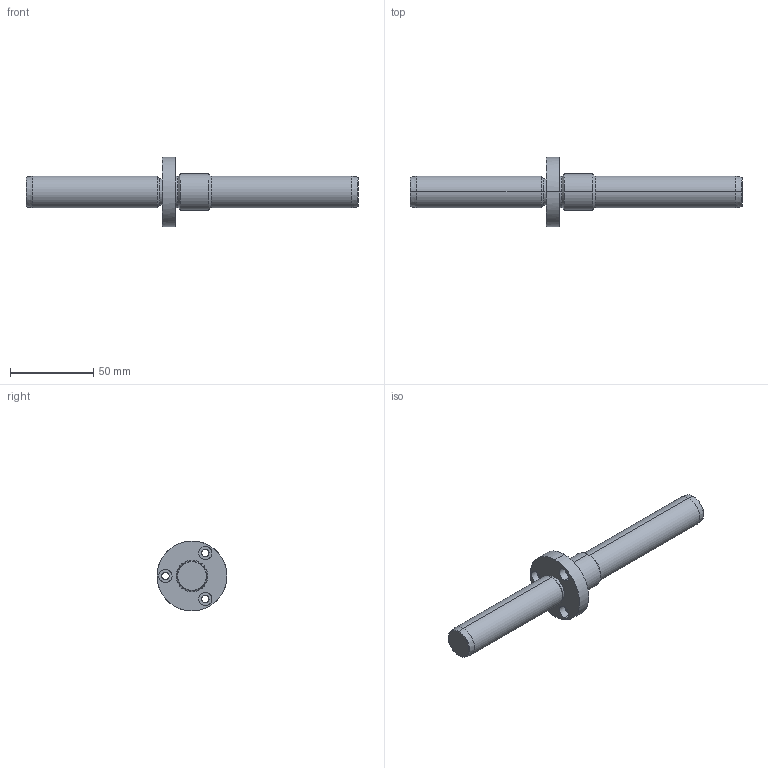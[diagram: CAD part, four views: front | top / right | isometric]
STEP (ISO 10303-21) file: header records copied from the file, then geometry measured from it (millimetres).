
FILE_DESCRIPTION(('CATIA V5 STEP Exchange'),'2;1');
FILE_NAME('C:\Users\Utente\Desktop\IO LAVORO\3D X SITO CF\X SITO\721\721-19x200.stp','2021-01-01T17:32:33+00:00',('none'),('none'),'CATIA Version 5 Release 20 GA (IN-10)','CATIA V5 STEP AP203','none');
FILE_SCHEMA(('CONFIG_CONTROL_DESIGN'));
Length unit declared in the file: millimetre
Products named in the file (1): 721-19x200
Bounding box: 200 x 42 x 42 mm (x, y, z)
Volume: 66127.2 mm3; surface area: 15943.8 mm2
Topology: 1 solids, 1 shells, 45 faces, 150 edges, 112 vertices
Faces by surface type: cylinder 24, cone 10, plane 7, torus 4
Entity records: 2060 total; most frequent: CARTESIAN_POINT 730, ORIENTED_EDGE 300, DIRECTION 206, EDGE_CURVE 150, AXIS2_PLACEMENT_3D 128, VERTEX_POINT 112, CIRCLE 82, EDGE_LOOP 56
